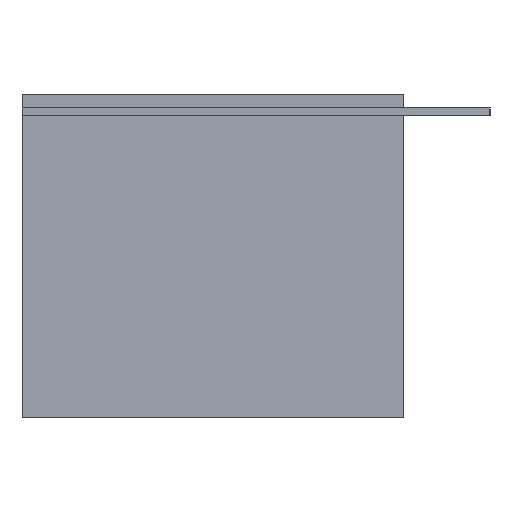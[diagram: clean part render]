
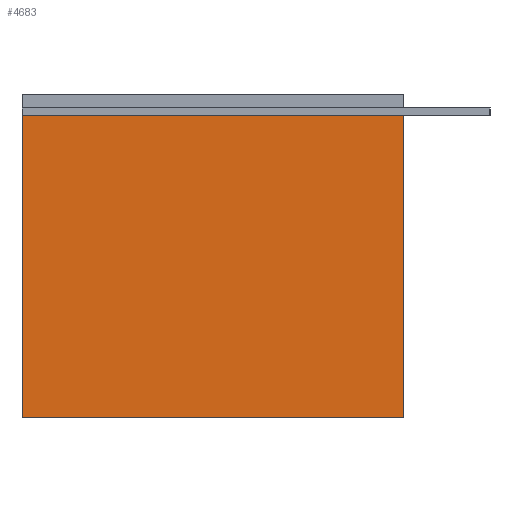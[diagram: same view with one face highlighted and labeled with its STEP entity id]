
A CAD part, left-side view. The second image highlights one B-rep face of the part: STEP entity #4683.
In plain terms, the highlighted planar face has unit normal (-1, 0, 0) as drawn and (1, 0, 0) by its records, which use the part's own axes.
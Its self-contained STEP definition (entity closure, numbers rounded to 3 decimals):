
#315=FACE_OUTER_BOUND('',#559,.T.);
#559=EDGE_LOOP('',(#4152,#4153,#4154,#4155));
#1016=LINE('',#7098,#1644);
#1058=LINE('',#7184,#1686);
#1153=LINE('',#7377,#1781);
#1188=LINE('',#7447,#1816);
#1644=VECTOR('',#5811,304.8);
#1686=VECTOR('',#5859,304.8);
#1781=VECTOR('',#6034,304.8);
#1816=VECTOR('',#6105,304.8);
#2144=VERTEX_POINT('',#7095);
#2145=VERTEX_POINT('',#7097);
#2186=VERTEX_POINT('',#7183);
#2244=VERTEX_POINT('',#7374);
#2740=EDGE_CURVE('',#2145,#2144,#1016,.T.);
#2784=EDGE_CURVE('',#2186,#2145,#1058,.T.);
#2881=EDGE_CURVE('',#2244,#2186,#1153,.T.);
#2916=EDGE_CURVE('',#2244,#2144,#1188,.T.);
#4152=ORIENTED_EDGE('',*,*,#2916,.F.);
#4153=ORIENTED_EDGE('',*,*,#2881,.T.);
#4154=ORIENTED_EDGE('',*,*,#2784,.T.);
#4155=ORIENTED_EDGE('',*,*,#2740,.T.);
#4451=PLANE('',#4955);
#4683=ADVANCED_FACE('',(#315),#4451,.T.);
#4955=AXIS2_PLACEMENT_3D('',#7446,#6103,#6104);
#5811=DIRECTION('',(0.,-1.,0.));
#5859=DIRECTION('',(0.,0.,1.));
#6034=DIRECTION('',(0.,1.,0.));
#6103=DIRECTION('center_axis',(1.,0.,0.));
#6104=DIRECTION('ref_axis',(0.,1.,0.));
#6105=DIRECTION('',(0.,0.,1.));
#7095=CARTESIAN_POINT('',(19.7,0.,71.));
#7097=CARTESIAN_POINT('',(19.7,89.7,71.));
#7098=CARTESIAN_POINT('',(19.7,89.7,71.));
#7183=CARTESIAN_POINT('',(19.7,89.7,0.));
#7184=CARTESIAN_POINT('',(19.7,89.7,0.));
#7374=CARTESIAN_POINT('',(19.7,0.,0.));
#7377=CARTESIAN_POINT('',(19.7,0.,0.));
#7446=CARTESIAN_POINT('Origin',(19.7,0.,16.644));
#7447=CARTESIAN_POINT('',(19.7,0.,0.));
